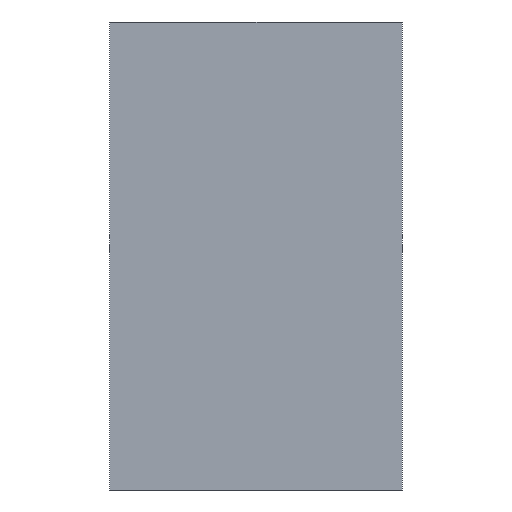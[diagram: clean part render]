
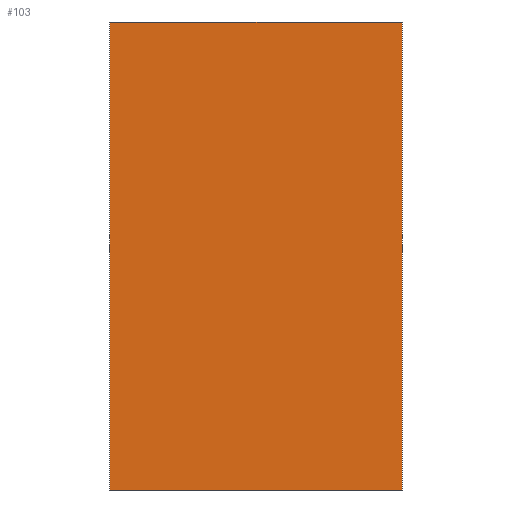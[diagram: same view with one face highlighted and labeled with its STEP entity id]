
A CAD part, left-side view. The second image highlights one B-rep face of the part: STEP entity #103.
In plain terms, the highlighted planar face has unit normal (-1, 0, 0).
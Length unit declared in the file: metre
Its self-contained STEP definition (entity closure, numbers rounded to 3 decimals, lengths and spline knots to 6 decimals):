
#32=ORIENTED_EDGE('',*,*,#36,.T.);
#33=ORIENTED_EDGE('',*,*,#46,.T.);
#34=ORIENTED_EDGE('',*,*,#43,.F.);
#35=ORIENTED_EDGE('',*,*,#40,.F.);
#36=EDGE_CURVE('',#48,#49,#56,.T.);
#40=EDGE_CURVE('',#48,#52,#60,.T.);
#43=EDGE_CURVE('',#52,#54,#63,.T.);
#46=EDGE_CURVE('',#49,#54,#66,.T.);
#48=VERTEX_POINT('',#152);
#49=VERTEX_POINT('',#153);
#52=VERTEX_POINT('',#161);
#54=VERTEX_POINT('',#167);
#56=LINE('',#151,#68);
#60=LINE('',#160,#72);
#63=LINE('',#166,#75);
#66=LINE('',#172,#78);
#68=VECTOR('',#127,1.);
#72=VECTOR('',#133,1.);
#75=VECTOR('',#138,1.);
#78=VECTOR('',#143,1.);
#85=EDGE_LOOP('',(#32,#33,#34,#35));
#91=FACE_BOUND('',#85,.T.);
#97=PLANE('',#122);
#103=ADVANCED_FACE('',(#91),#97,.F.);
#122=AXIS2_PLACEMENT_3D('',#175,#147,#148);
#127=DIRECTION('',(0.,1.,0.));
#133=DIRECTION('',(0.,0.,-1.));
#138=DIRECTION('',(0.,1.,0.));
#143=DIRECTION('',(0.,0.,-1.));
#147=DIRECTION('',(1.,0.,0.));
#148=DIRECTION('',(0.,1.,0.));
#151=CARTESIAN_POINT('',(0.,-0.376578,0.164009));
#152=CARTESIAN_POINT('',(0.,-0.391578,0.164009));
#153=CARTESIAN_POINT('',(0.,-0.361578,0.164009));
#160=CARTESIAN_POINT('',(0.,-0.391578,0.140009));
#161=CARTESIAN_POINT('',(0.,-0.391578,0.116009));
#166=CARTESIAN_POINT('',(0.,-0.376578,0.116009));
#167=CARTESIAN_POINT('',(0.,-0.361578,0.116009));
#172=CARTESIAN_POINT('',(0.,-0.361578,0.140009));
#175=CARTESIAN_POINT('',(0.,-0.376578,0.140009));
